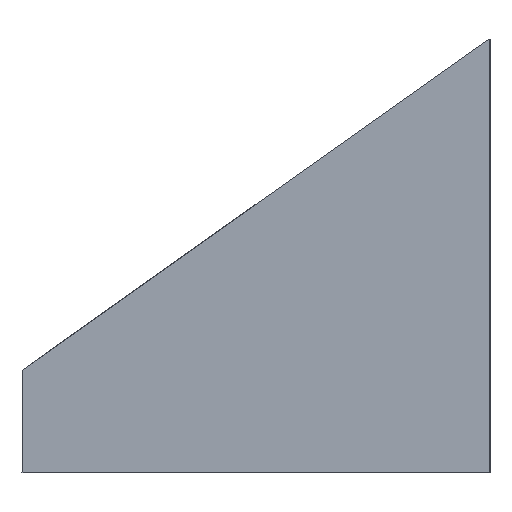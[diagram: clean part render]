
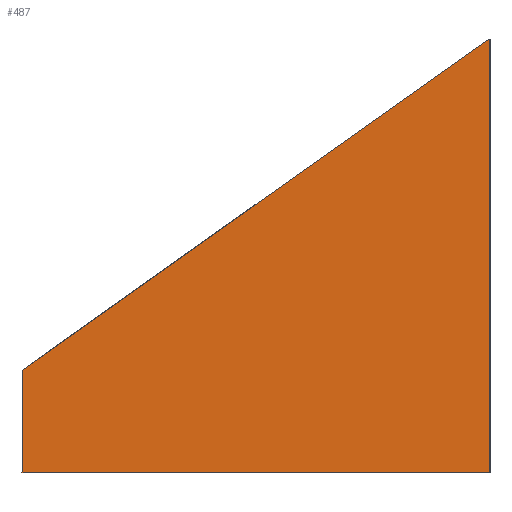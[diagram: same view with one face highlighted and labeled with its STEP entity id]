
A CAD part, left-side view. The second image highlights one B-rep face of the part: STEP entity #487.
In plain terms, the highlighted planar face has unit normal (-1, 0, 0).
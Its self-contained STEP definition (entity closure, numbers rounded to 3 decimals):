
#95=FACE_OUTER_BOUND('',#122,.T.);
#122=EDGE_LOOP('',(#415,#416,#417,#418,#419));
#133=LINE('',#663,#186);
#166=LINE('',#728,#219);
#172=LINE('',#740,#225);
#182=LINE('',#760,#235);
#183=LINE('',#762,#236);
#186=VECTOR('',#548,10.);
#219=VECTOR('',#595,10.);
#225=VECTOR('',#605,10.);
#235=VECTOR('',#629,10.);
#236=VECTOR('',#632,10.);
#239=VERTEX_POINT('',#661);
#240=VERTEX_POINT('',#662);
#265=VERTEX_POINT('',#726);
#268=VERTEX_POINT('',#736);
#269=VERTEX_POINT('',#738);
#277=EDGE_CURVE('',#239,#240,#133,.T.);
#310=EDGE_CURVE('',#265,#240,#166,.T.);
#316=EDGE_CURVE('',#268,#269,#172,.T.);
#326=EDGE_CURVE('',#239,#269,#182,.T.);
#327=EDGE_CURVE('',#265,#268,#183,.T.);
#415=ORIENTED_EDGE('',*,*,#277,.T.);
#416=ORIENTED_EDGE('',*,*,#310,.F.);
#417=ORIENTED_EDGE('',*,*,#327,.T.);
#418=ORIENTED_EDGE('',*,*,#316,.T.);
#419=ORIENTED_EDGE('',*,*,#326,.F.);
#465=PLANE('',#531);
#487=ADVANCED_FACE('',(#95),#465,.T.);
#531=AXIS2_PLACEMENT_3D('',#761,#630,#631);
#548=DIRECTION('',(0.,0.816,-0.579));
#595=DIRECTION('',(0.,0.,1.));
#605=DIRECTION('',(0.,0.,1.));
#629=DIRECTION('',(0.,-1.,0.));
#630=DIRECTION('center_axis',(-1.,0.,0.));
#631=DIRECTION('ref_axis',(0.,-1.,0.));
#632=DIRECTION('',(0.,-1.,0.));
#661=CARTESIAN_POINT('',(-17.,-14.916,25.));
#662=CARTESIAN_POINT('',(-17.,12.,5.91));
#663=CARTESIAN_POINT('',(-17.,13.394,4.921));
#726=CARTESIAN_POINT('',(-17.,12.,0.));
#728=CARTESIAN_POINT('',(-17.,12.,0.));
#736=CARTESIAN_POINT('',(-17.,-15.,0.));
#738=CARTESIAN_POINT('',(-17.,-15.,25.));
#740=CARTESIAN_POINT('',(-17.,-15.,0.));
#760=CARTESIAN_POINT('',(-17.,12.,25.));
#761=CARTESIAN_POINT('Origin',(-17.,12.,0.));
#762=CARTESIAN_POINT('',(-17.,12.,0.));
